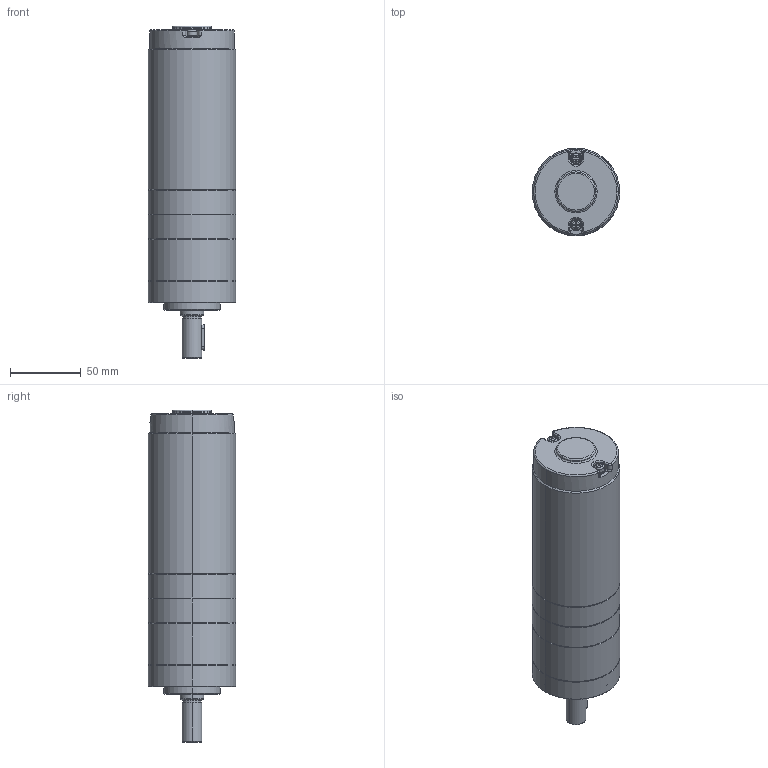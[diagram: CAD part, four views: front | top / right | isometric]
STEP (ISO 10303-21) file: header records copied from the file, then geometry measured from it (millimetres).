
FILE_DESCRIPTION (( 'STEP AP203' ), '1' );
FILE_NAME ('62ZPN衄芃媼撰熬厒90W.STEP', '2021-07-17T08:18:07', ( '' ), ( '' ), 'SwSTEP 2.0', 'SolidWorks 2021', '' );
FILE_SCHEMA (( 'CONFIG_CONTROL_DESIGN' ));
Length unit declared in the file: millimetre
Products named in the file (1): 62ZPN衄芃媼撰熬厒90W
Bounding box: 62 x 62 x 235.2 mm (x, y, z)
Volume: 592594 mm3; surface area: 48902.7 mm2
Topology: 1 solids, 1 shells, 277 faces, 645 edges, 385 vertices
Faces by surface type: plane 98, cylinder 97, cone 48, torus 27, bspline 7
Entity records: 8342 total; most frequent: CARTESIAN_POINT 1897, DIRECTION 1416, ORIENTED_EDGE 1266, EDGE_CURVE 633, AXIS2_PLACEMENT_3D 540, VERTEX_POINT 385, LINE 336, VECTOR 336
